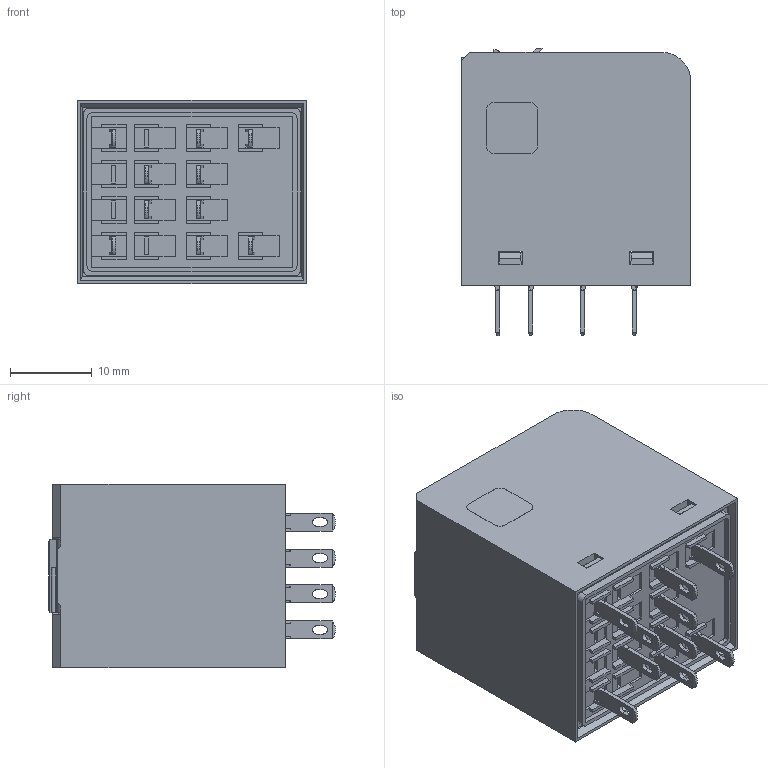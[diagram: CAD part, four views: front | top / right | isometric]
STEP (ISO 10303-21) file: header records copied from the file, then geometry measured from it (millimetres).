
FILE_DESCRIPTION(('STEP AP214'), '1');
FILE_NAME('Ðåëå ïðîìåæóòî÷íîå ÐÏ30-220 (íà ïîêàç)', '', ('UNSPECIFIED'), ('UNSPECIFIED'), 'ASCON STEP Converter 1.6', 'ASCON Math Kernel', '');
FILE_SCHEMA(('AUTOMOTIVE_DESIGN { 1 0 10303 214 3 1 1}'));
Length unit declared in the file: millimetre
Bounding box: 28 x 35.1 x 22.5 mm (x, y, z)
Volume: 4408.8 mm3; surface area: 9090 mm2
Topology: 6 solids, 6 shells, 786 faces, 2082 edges, 1320 vertices
Faces by surface type: plane 667, cylinder 118, cone 1
Full cylindrical faces by diameter (mm): 0.6 x2
Entity records: 30270 total; most frequent: CARTESIAN_POINT 4246, ORIENTED_EDGE 4158, DIRECTION 3891, EDGE_CURVE 2079, LINE 1801, VECTOR 1801, VERTEX_POINT 1320, AXIS2_PLACEMENT_3D 1045
